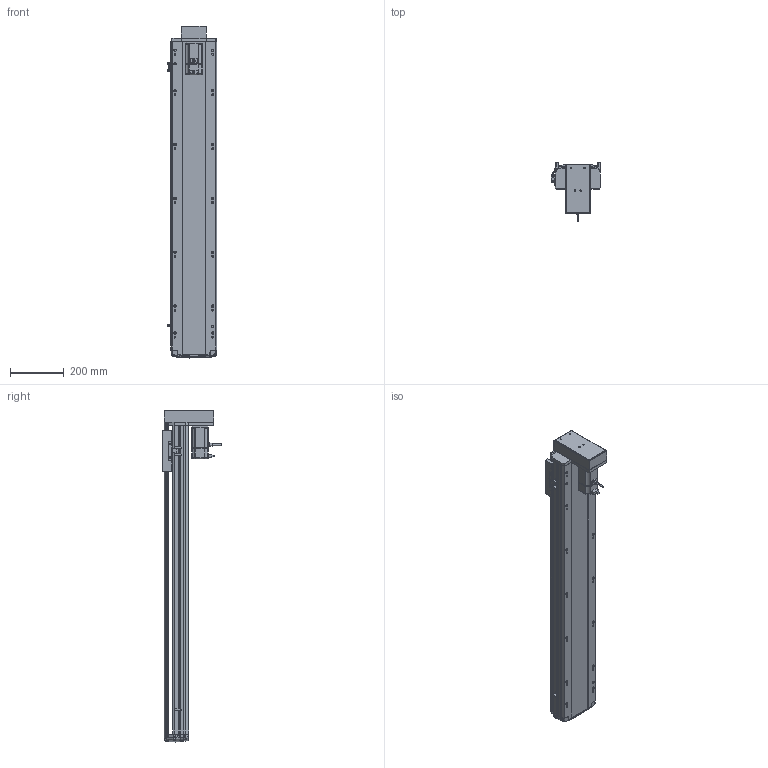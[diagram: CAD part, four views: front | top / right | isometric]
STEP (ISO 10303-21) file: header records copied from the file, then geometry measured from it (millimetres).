
FILE_DESCRIPTION (( 'STEP AP214' ), '1' );
FILE_NAME ('RTH17-XX-950-M-M40-C4.STEP', '2025-10-24T09:08:32', ( '' ), ( '' ), 'SwSTEP 2.0', 'SolidWorks 2018', '' );
FILE_SCHEMA (( 'AUTOMOTIVE_DESIGN' ));
Length unit declared in the file: millimetre
Products named in the file (10): N_M40^RTH17-XX-XX-M-M40-C4（方程式）; N_RTH17-E-004丝杆螺母连接座^RTH17-XX-XX-M-M40-C4（方程式）; N_RTH-BL-012 感应片(外置)^RTH17-XX-XX-M-M40-C4（方程式）; RTH17-XX-950-M-M40-C4; N_RTH17-M-008-P40电机安装板下折^RTH17-XX-XX-M-M40-C4（方程式）; N_OMRON EE-SX672 換覜ん^RTH17-XX-XX-M-M40-C4ㄗ源最宒ㄘ; N_RTH17-M-011底座^RTH17-XX-XX-M-M40-C4（方程式）; N_RTH17-M-018盖子^RTH17-XX-XX-M-M40-C4（方程式）; N_RTH17-M-007上盖^RTH17-XX-XX-M-M40-C4（方程式）; N_RTH17-GY-001P^RTH17-XX-XX-M-M40-C4（方程式）
Assembly tree (11 placements, depth 2):
  RTH17-XX-950-M-M40-C4
    N_RTH17-M-011底座^RTH17-XX-XX-M-M40-C4（方程式）
    N_RTH17-M-007上盖^RTH17-XX-XX-M-M40-C4（方程式）
    N_M40^RTH17-XX-XX-M-M40-C4（方程式）
    N_OMRON EE-SX672 換覜ん^RTH17-XX-XX-M-M40-C4ㄗ源最宒ㄘ  x3
    N_RTH-BL-012 感应片(外置)^RTH17-XX-XX-M-M40-C4（方程式）
    N_RTH17-M-008-P40电机安装板下折^RTH17-XX-XX-M-M40-C4（方程式）
    N_RTH17-M-018盖子^RTH17-XX-XX-M-M40-C4（方程式）
    N_RTH17-E-004丝杆螺母连接座^RTH17-XX-XX-M-M40-C4（方程式）
    N_RTH17-GY-001P^RTH17-XX-XX-M-M40-C4（方程式）
Bounding box: 183.5 x 219 x 1233.19 mm (x, y, z)
Volume: 9530371.6 mm3; surface area: 1347464.5 mm2
Topology: 10 solids, 12 shells, 1679 faces, 4698 edges, 3064 vertices
Faces by surface type: plane 834, cylinder 478, bspline 330, cone 28, torus 9
Entity records: 49396 total; most frequent: CARTESIAN_POINT 19914, ORIENTED_EDGE 6420, DIRECTION 5290, EDGE_CURVE 3214, VERTEX_POINT 2100, LINE 1792, VECTOR 1792, AXIS2_PLACEMENT_3D 1749
